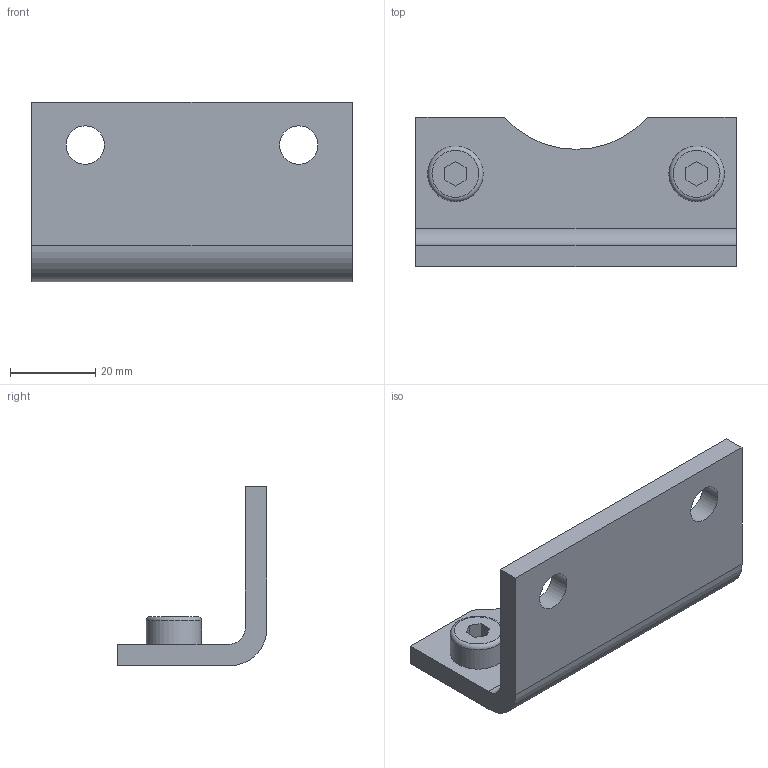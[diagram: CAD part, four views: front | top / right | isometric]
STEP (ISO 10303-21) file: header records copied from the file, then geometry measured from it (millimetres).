
FILE_DESCRIPTION( ( 'STEP AP214' ), '1' );
FILE_NAME( 'p:/temp/worker_147/temp/app_42_02019011813361407706406192d056f_000000_00_00_000000/format_0/LB-MCQI2-63.stp', '2019-01-18T12:36:14', ( '' ), ( '' ), ' ', 'PARTsolutions', ' ' );
FILE_SCHEMA( ( 'AUTOMOTIVE_DESIGN { 1 0 10303 214 1 1 1 1 }' ) );
Length unit declared in the file: millimetre
Products named in the file (1): _LB-MCQI2-63
Bounding box: 75 x 35 x 42 mm (x, y, z)
Volume: 26122.7 mm3; surface area: 12178.4 mm2
Topology: 1 solids, 1 shells, 34 faces, 84 edges, 56 vertices
Faces by surface type: plane 25, cylinder 7, torus 2
Full cylindrical faces by diameter (mm): 9 x2, 13 x2
Entity records: 1252 total; most frequent: CARTESIAN_POINT 165, DIRECTION 162, ORIENTED_EDGE 152, EDGE_CURVE 76, LINE 60, VECTOR 60, VERTEX_POINT 54, AXIS2_PLACEMENT_3D 51
